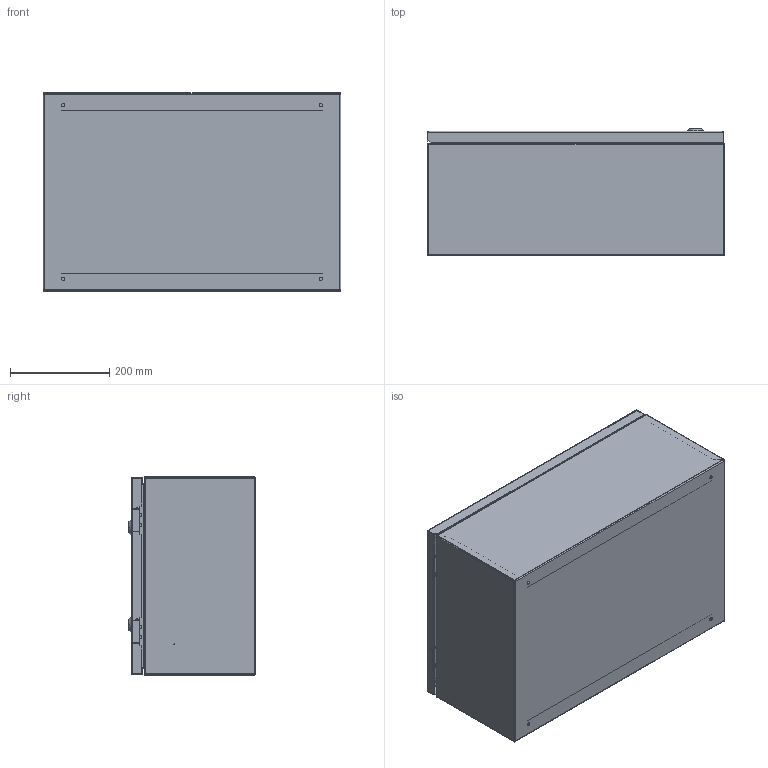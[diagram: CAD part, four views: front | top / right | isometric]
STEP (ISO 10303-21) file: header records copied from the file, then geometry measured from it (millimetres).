
FILE_DESCRIPTION (( 'STEP AP214' ), '1' );
FILE_NAME ('ÙÌÏ-462-400õ600õ250-IP54-ÓÕË2-ÊÝÀÇ.STEP', '2023-01-24T12:10:33', ( '' ), ( '' ), 'SwSTEP 2.0', 'SolidWorks 2018', '' );
FILE_SCHEMA (( 'AUTOMOTIVE_DESIGN' ));
Length unit declared in the file: millimetre
Products named in the file (1): ÙÌÏ-462-400õ600õ250-IP54-ÓÕË2-ÊÝÀÇ
Bounding box: 600 x 256.7 x 400 mm (x, y, z)
Surface area: 1993028.7 mm2 (no closed solid volume)
Topology: 0 solids, 32 shells, 222 faces, 763 edges, 566 vertices
Faces by surface type: plane 119, cylinder 73, bspline 18, torus 8, cone 4
Entity records: 11871 total; most frequent: CARTESIAN_POINT 2950, DIRECTION 1337, ORIENTED_EDGE 1116, EDGE_CURVE 763, VERTEX_POINT 566, LINE 459, VECTOR 459, AXIS2_PLACEMENT_3D 439
